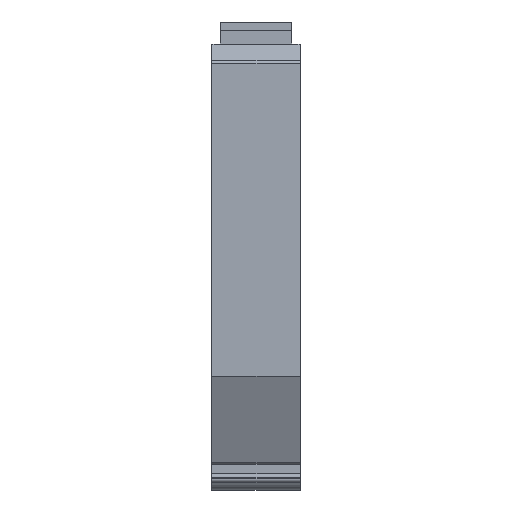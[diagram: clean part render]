
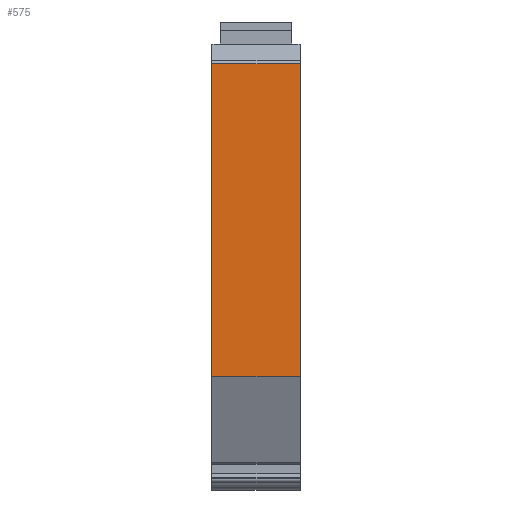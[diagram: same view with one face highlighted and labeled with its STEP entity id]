
A CAD part, left-side view. The second image highlights one B-rep face of the part: STEP entity #575.
In plain terms, the highlighted planar face has unit normal (-1, 0, 0).
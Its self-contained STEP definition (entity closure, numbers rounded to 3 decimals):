
#575=ADVANCED_FACE('',(#6552),#6554,.T.);
#6552=FACE_BOUND('',#6553,.T.);
#6553=EDGE_LOOP('',(#11400,#11401,#11402,#11403));
#6554=PLANE('',#6555);
#6555=AXIS2_PLACEMENT_3D('',#6556,#6557,#6558);
#6556=CARTESIAN_POINT('',(-60.,0.,0.));
#6557=DIRECTION('',(-1.,0.,0.));
#6558=DIRECTION('',(0.,0.,1.));
#11400=ORIENTED_EDGE('',*,*,#15072,.T.);
#11401=ORIENTED_EDGE('',*,*,#14779,.T.);
#11402=ORIENTED_EDGE('',*,*,#15071,.T.);
#11403=ORIENTED_EDGE('',*,*,#14842,.F.);
#14779=EDGE_CURVE('',#16755,#16753,#16756,.T.);
#14842=EDGE_CURVE('',#16879,#16881,#16882,.T.);
#15071=EDGE_CURVE('',#16753,#16881,#17281,.T.);
#15072=EDGE_CURVE('',#16879,#16755,#17282,.F.);
#16753=VERTEX_POINT('',#20080);
#16755=VERTEX_POINT('',#20085);
#16756=LINE('',#20086,#20087);
#16879=VERTEX_POINT('',#20348);
#16881=VERTEX_POINT('',#20352);
#16882=LINE('',#20353,#20354);
#17281=LINE('',#21265,#21266);
#17282=LINE('',#21268,#21269);
#20080=CARTESIAN_POINT('',(-60.,0.,58.1));
#20085=CARTESIAN_POINT('',(-60.,0.,15.517));
#20086=CARTESIAN_POINT('',(-60.,0.,15.517));
#20087=VECTOR('',#20088,1.);
#20088=DIRECTION('',(0.,0.,1.));
#20348=CARTESIAN_POINT('',(-60.,12.,15.517));
#20352=CARTESIAN_POINT('',(-60.,12.,58.1));
#20353=CARTESIAN_POINT('',(-60.,12.,15.517));
#20354=VECTOR('',#20355,1.);
#20355=DIRECTION('',(0.,0.,1.));
#21265=CARTESIAN_POINT('',(-60.,0.,58.1));
#21266=VECTOR('',#21267,1.);
#21267=DIRECTION('',(0.,1.,0.));
#21268=CARTESIAN_POINT('',(-60.,0.,15.517));
#21269=VECTOR('',#21270,1.);
#21270=DIRECTION('',(0.,1.,0.));
